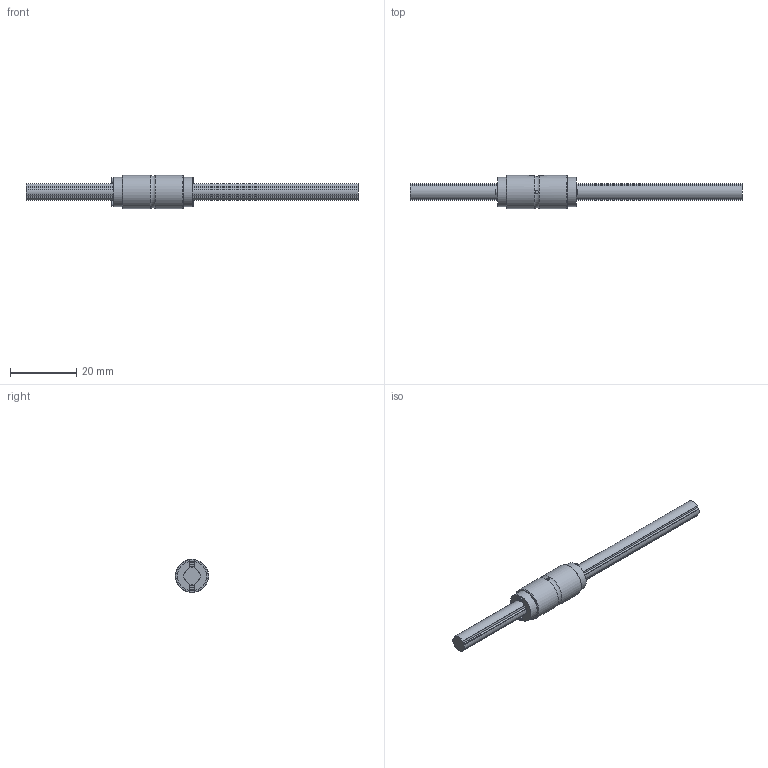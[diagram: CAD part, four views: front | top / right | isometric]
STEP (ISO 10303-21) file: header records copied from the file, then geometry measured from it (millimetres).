
FILE_DESCRIPTION(/* description */ ('STEP AP214'),/* implementation_level */ '2;1');
FILE_NAME(/* name */ 'LT5XL+100L(00)',/* time_stamp */ '2024-09-05T14:12:06+02:00',/* author */ ('License CC BY-ND 4.0'),/* organization */ ('CADENAS'),/* preprocessor_version */ 'ST-DEVELOPER v19.3',/* originating_system */ 'PARTsolutions',/* authorisation */ ' ');
FILE_SCHEMA (('AUTOMOTIVE_DESIGN {1 0 10303 214 3 1 1}'));
Length unit declared in the file: millimetre
Products named in the file (3): LT5XL+100L(00); 1LT5XL 100Shaft; 1LT5XL Cylindar
Assembly tree (2 placements, depth 2):
  LT5XL+100L(00)
    1LT5XL 100Shaft
    1LT5XL Cylindar
Bounding box: 100 x 10 x 10 mm (x, y, z)
Volume: 3187.2 mm3; surface area: 2884.8 mm2
Topology: 2 solids, 2 shells, 120 faces, 320 edges, 214 vertices
Faces by surface type: plane 73, cylinder 44, cone 2, torus 1
Full cylindrical faces by diameter (mm): 1 x2, 1.6 x4, 8.8 x2, 10 x2
Entity records: 3761 total; most frequent: CARTESIAN_POINT 693, DIRECTION 624, ORIENTED_EDGE 604, EDGE_CURVE 302, LINE 210, VECTOR 210, VERTEX_POINT 208, AXIS2_PLACEMENT_3D 207
